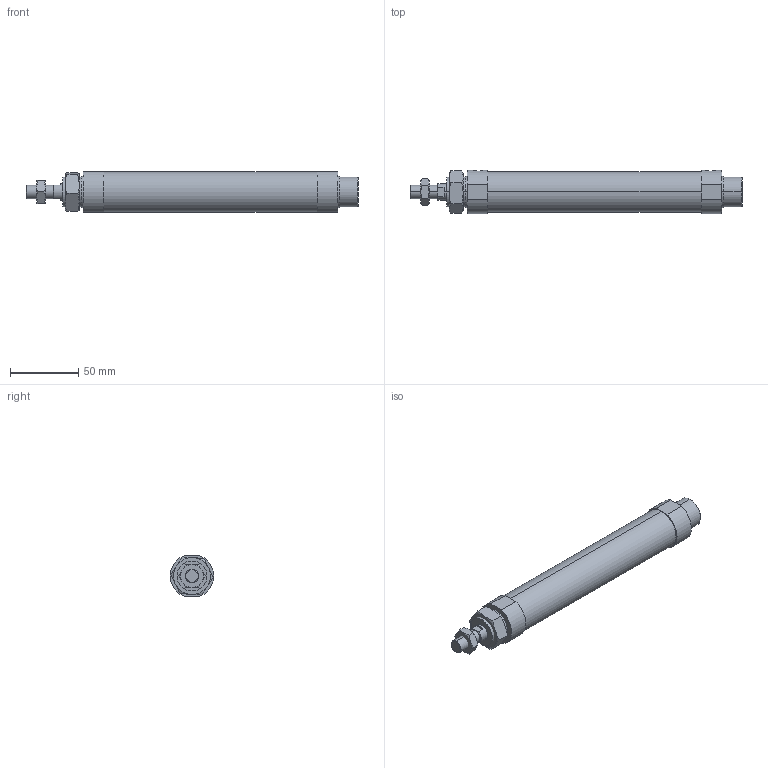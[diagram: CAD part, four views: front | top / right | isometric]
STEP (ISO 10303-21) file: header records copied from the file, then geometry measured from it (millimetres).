
FILE_DESCRIPTION (( 'STEP AP203' ), '1' );
FILE_NAME ('J#2-25-125-N.STEP', '2016-03-08T07:25:43', ( '' ), ( '' ), 'SwSTEP 2.0', 'SolidWorks 2014', '' );
FILE_SCHEMA (( 'CONFIG_CONTROL_DESIGN' ));
Length unit declared in the file: millimetre
Products named in the file (4): J#2-25-125-N; J#2-25-125
Assembly tree (3 placements, depth 2):
  J#2-25-125-N
    J#2-25-125
    (unnamed)
    (unnamed)
Bounding box: 244 x 32 x 30 mm (x, y, z)
Volume: 149983.8 mm3; surface area: 26723.3 mm2
Topology: 3 solids, 3 shells, 97 faces, 214 edges, 126 vertices
Faces by surface type: plane 37, cylinder 26, torus 24, cone 10
Entity records: 3360 total; most frequent: CARTESIAN_POINT 879, DIRECTION 442, ORIENTED_EDGE 420, EDGE_CURVE 210, AXIS2_PLACEMENT_3D 185, VERTEX_POINT 126, EDGE_LOOP 108, FACE_OUTER_BOUND 97
